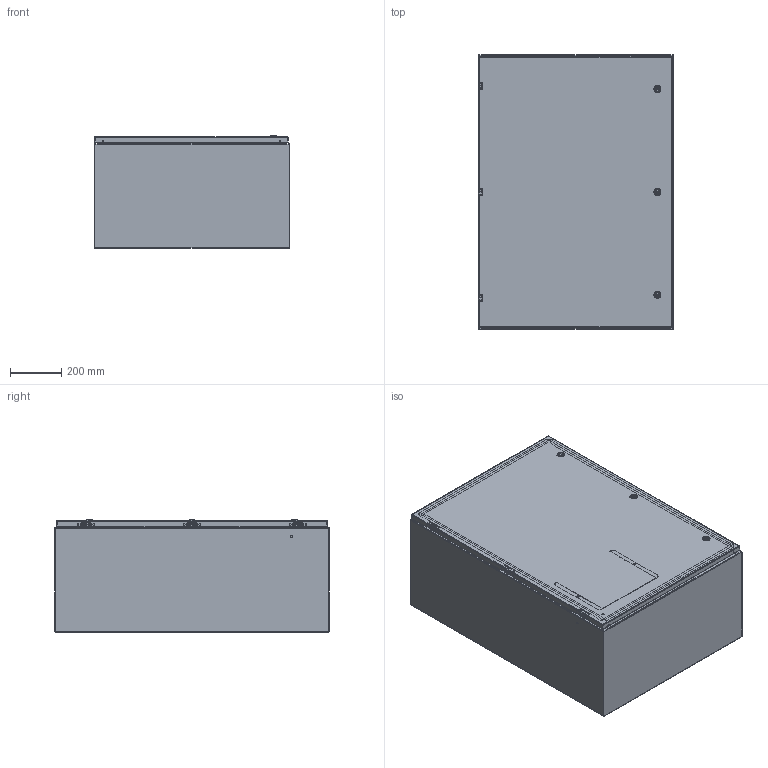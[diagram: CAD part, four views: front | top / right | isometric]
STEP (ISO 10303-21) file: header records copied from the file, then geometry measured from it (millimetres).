
FILE_DESCRIPTION((''),'2;1');
FILE_NAME('MODEL-305_ASM','2025-02-20T10:24:32',('joshi'),('SAGINAW CONTROL & ENGINEERING'),'CREO PARAMETRIC BY PTC INC, 2021284','CREO PARAMETRIC BY PTC INC, 2021284','');
FILE_SCHEMA(('AUTOMOTIVE_DESIGN { 1 0 10303 214 1 1 1 1 }'));
Length unit declared in the file: inch
Products named in the file (29): MODEL-305-BDY; MODEL-305-TP; MODEL-305-BTM; MODEL-305-DR; 100837; 100882; 111267; 100794_SHAFT; 100794_INSERT; 100794_CAM; 100794_NUT; 100794_SCREW; 100794_ASM; MODEL-305-DOOR-GASKET; 126391; 126391_ASM; 126393; 102483; 101226; 101376; 102140; 132757; MODEL-305-DOOR-ASSY_ASM; 101653; 122192; SUBPANEL; 100904; SUBPANEL-SUBASSEMBLY_ASM; MODEL-305_ASM
Assembly tree (64 placements, depth 4):
  MODEL-305_ASM
    MODEL-305-BDY
    MODEL-305-TP
    MODEL-305-BTM
    MODEL-305-DOOR-ASSY_ASM
      MODEL-305-DR
      100837  x3
      100882  x2
      111267
      100794_ASM  x3
        100794_SHAFT
        100794_INSERT
        100794_CAM
        100794_NUT
        100794_SCREW
      MODEL-305-DOOR-GASKET
      126391_ASM  x3
        126391
      126393  x3
      102483  x9
      101226  x3
      101376  x3
      102140  x3
      132757  x3
    100837
    101653  x6
    122192
    SUBPANEL-SUBASSEMBLY_ASM
      SUBPANEL
      100904  x6
Bounding box: 762 x 1066.8 x 437.53 mm (x, y, z)
Volume: 9394146 mm3; surface area: 8563758.4 mm2
Topology: 70 solids, 70 shells, 4104 faces, 10375 edges, 6516 vertices
Faces by surface type: plane 1853, cylinder 1180, bspline 504, torus 307, cone 180, sphere 80
Entity records: 87793 total; most frequent: CARTESIAN_POINT 24971, ORIENTED_EDGE 9064, DIRECTION 8640, PRESENTATION_STYLE_ASSIGNMENT 4730, EDGE_CURVE 4532, STYLED_ITEM 4455, CURVE_STYLE 4370, AXIS2_PLACEMENT_3D 3166
